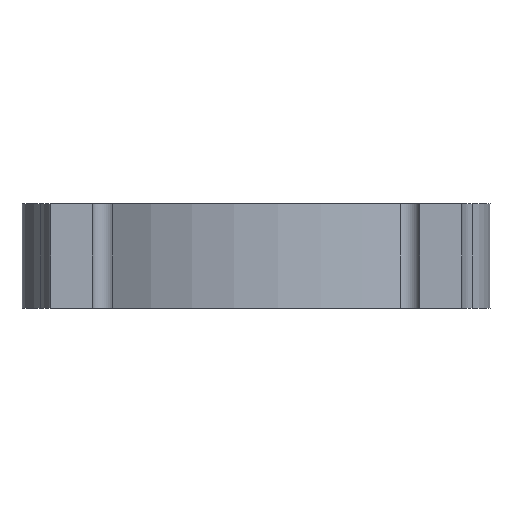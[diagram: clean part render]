
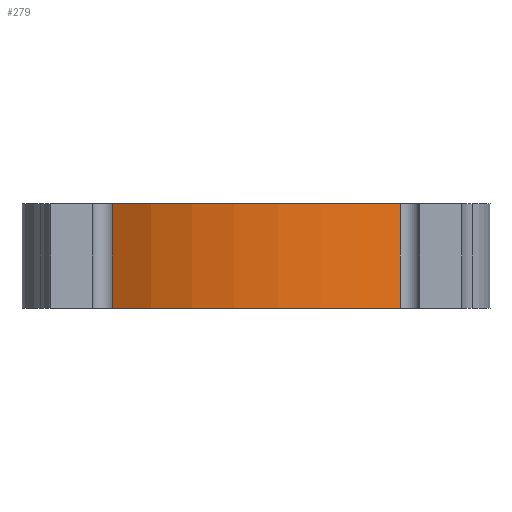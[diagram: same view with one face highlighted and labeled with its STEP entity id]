
A CAD part, front view. The second image highlights one B-rep face of the part: STEP entity #279.
In plain terms, the highlighted cylindrical face has radius 5.2 mm (diameter 10.4 mm), a partial arc.
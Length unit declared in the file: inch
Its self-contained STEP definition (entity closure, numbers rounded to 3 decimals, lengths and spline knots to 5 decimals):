
#10 = ORIENTED_EDGE ( 'NONE', *, *, #357, .T. ) ;
#18 = AXIS2_PLACEMENT_3D ( 'NONE', #433, #487, #612 ) ;
#62 = VERTEX_POINT ( 'NONE', #94 ) ;
#75 = CARTESIAN_POINT ( 'NONE',  ( 0.10894, -0.17334, 0. ) ) ;
#89 = CARTESIAN_POINT ( 'NONE',  ( -0.10894, -0.17334, 0. ) ) ;
#94 = CARTESIAN_POINT ( 'NONE',  ( 0.10894, -0.17334, 0. ) ) ;
#103 = EDGE_CURVE ( 'NONE', #575, #797, #488, .T. ) ;
#110 = CARTESIAN_POINT ( 'NONE',  ( -0.10894, -0.17334, 0.07874 ) ) ;
#128 = CYLINDRICAL_SURFACE ( 'NONE', #18, 0.20472 ) ;
#133 = ORIENTED_EDGE ( 'NONE', *, *, #607, .F. ) ;
#183 = DIRECTION ( 'NONE',  ( 1., 0., 0. ) ) ;
#206 = CIRCLE ( 'NONE', #387, 0.20472 ) ;
#279 = ADVANCED_FACE ( 'NONE', ( #572 ), #128, .T. ) ;
#286 = DIRECTION ( 'NONE',  ( 0., 0., 1. ) ) ;
#292 = VECTOR ( 'NONE', #465, 39.37008 ) ;
#321 = DIRECTION ( 'NONE',  ( 0., 0., -1. ) ) ;
#342 = EDGE_LOOP ( 'NONE', ( #10, #702, #133, #513 ) ) ;
#357 = EDGE_CURVE ( 'NONE', #611, #797, #206, .T. ) ;
#387 = AXIS2_PLACEMENT_3D ( 'NONE', #446, #321, #758 ) ;
#405 = VECTOR ( 'NONE', #286, 39.37008 ) ;
#433 = CARTESIAN_POINT ( 'NONE',  ( 0., 0., 0. ) ) ;
#446 = CARTESIAN_POINT ( 'NONE',  ( 0., 0., 0.07874 ) ) ;
#465 = DIRECTION ( 'NONE',  ( 0., 0., 1. ) ) ;
#487 = DIRECTION ( 'NONE',  ( 0., 0., 1. ) ) ;
#488 = LINE ( 'NONE', #89, #405 ) ;
#504 = CARTESIAN_POINT ( 'NONE',  ( 0., 0., 0. ) ) ;
#513 = ORIENTED_EDGE ( 'NONE', *, *, #566, .T. ) ;
#523 = CARTESIAN_POINT ( 'NONE',  ( 0.10894, -0.17334, 0.07874 ) ) ;
#566 = EDGE_CURVE ( 'NONE', #62, #611, #604, .T. ) ;
#567 = DIRECTION ( 'NONE',  ( 0., 0., -1. ) ) ;
#568 = AXIS2_PLACEMENT_3D ( 'NONE', #504, #567, #183 ) ;
#572 = FACE_OUTER_BOUND ( 'NONE', #342, .T. ) ;
#575 = VERTEX_POINT ( 'NONE', #711 ) ;
#604 = LINE ( 'NONE', #75, #292 ) ;
#607 = EDGE_CURVE ( 'NONE', #62, #575, #626, .T. ) ;
#611 = VERTEX_POINT ( 'NONE', #523 ) ;
#612 = DIRECTION ( 'NONE',  ( 1., 0., 0. ) ) ;
#626 = CIRCLE ( 'NONE', #568, 0.20472 ) ;
#702 = ORIENTED_EDGE ( 'NONE', *, *, #103, .F. ) ;
#711 = CARTESIAN_POINT ( 'NONE',  ( -0.10894, -0.17334, 0. ) ) ;
#758 = DIRECTION ( 'NONE',  ( 1., 0., 0. ) ) ;
#797 = VERTEX_POINT ( 'NONE', #110 ) ;
